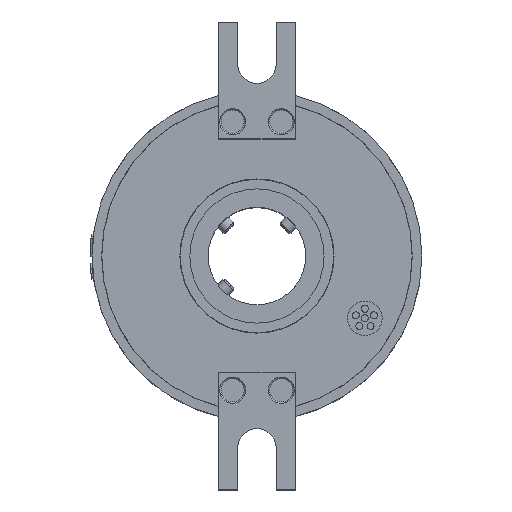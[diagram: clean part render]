
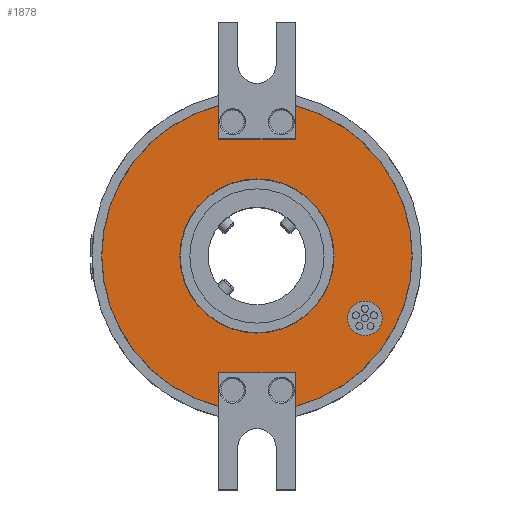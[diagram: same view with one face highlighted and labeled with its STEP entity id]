
A CAD part, top view. The second image highlights one B-rep face of the part: STEP entity #1878.
In plain terms, the highlighted planar face has unit normal (0, 0, 1).
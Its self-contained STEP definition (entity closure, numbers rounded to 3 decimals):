
#213=FACE_BOUND('',#4796,.T.);
#214=FACE_BOUND('',#4797,.T.);
#215=FACE_BOUND('',#4798,.T.);
#503=CIRCLE('',#16333,4.5);
#504=CIRCLE('',#16334,40.45);
#505=CIRCLE('',#16335,40.45);
#506=CIRCLE('',#16336,20.1);
#920=PLANE('',#16337);
#1167=LINE('',#30796,#3143);
#1168=LINE('',#30799,#3144);
#1169=LINE('',#30801,#3145);
#1170=LINE('',#30805,#3146);
#1171=LINE('',#30807,#3147);
#1172=LINE('',#30809,#3148);
#1878=ADVANCED_FACE('',(#213,#214,#215),#920,.T.);
#3143=VECTOR('',#17886,1.);
#3144=VECTOR('',#17887,1.);
#3145=VECTOR('',#17888,1.);
#3146=VECTOR('',#17891,1.);
#3147=VECTOR('',#17892,1.);
#3148=VECTOR('',#17893,1.);
#4796=EDGE_LOOP('',(#8015));
#4797=EDGE_LOOP('',(#8016,#8017,#8018,#8019,#8020,#8021,#8022,#8023));
#4798=EDGE_LOOP('',(#8024));
#8015=ORIENTED_EDGE('',*,*,#13122,.T.);
#8016=ORIENTED_EDGE('',*,*,#13123,.F.);
#8017=ORIENTED_EDGE('',*,*,#13124,.F.);
#8018=ORIENTED_EDGE('',*,*,#13125,.F.);
#8019=ORIENTED_EDGE('',*,*,#13126,.F.);
#8020=ORIENTED_EDGE('',*,*,#13127,.F.);
#8021=ORIENTED_EDGE('',*,*,#13128,.F.);
#8022=ORIENTED_EDGE('',*,*,#13129,.F.);
#8023=ORIENTED_EDGE('',*,*,#13130,.F.);
#8024=ORIENTED_EDGE('',*,*,#13131,.F.);
#10994=VERTEX_POINT('',#30795);
#10995=VERTEX_POINT('',#30797);
#10996=VERTEX_POINT('',#30798);
#10997=VERTEX_POINT('',#30800);
#10998=VERTEX_POINT('',#30802);
#10999=VERTEX_POINT('',#30804);
#11000=VERTEX_POINT('',#30806);
#11001=VERTEX_POINT('',#30808);
#11002=VERTEX_POINT('',#30810);
#11003=VERTEX_POINT('',#30813);
#13122=EDGE_CURVE('',#10994,#10994,#503,.T.);
#13123=EDGE_CURVE('',#10995,#10996,#1167,.T.);
#13124=EDGE_CURVE('',#10997,#10995,#1168,.T.);
#13125=EDGE_CURVE('',#10998,#10997,#1169,.T.);
#13126=EDGE_CURVE('',#10999,#10998,#504,.T.);
#13127=EDGE_CURVE('',#11000,#10999,#1170,.T.);
#13128=EDGE_CURVE('',#11001,#11000,#1171,.T.);
#13129=EDGE_CURVE('',#11002,#11001,#1172,.T.);
#13130=EDGE_CURVE('',#10996,#11002,#505,.T.);
#13131=EDGE_CURVE('',#11003,#11003,#506,.T.);
#16333=AXIS2_PLACEMENT_3D('',#30794,#17884,#17885);
#16334=AXIS2_PLACEMENT_3D('',#30803,#17889,#17890);
#16335=AXIS2_PLACEMENT_3D('',#30811,#17894,#17895);
#16336=AXIS2_PLACEMENT_3D('',#30812,#17896,#17897);
#16337=AXIS2_PLACEMENT_3D('',#30814,#17898,#17899);
#17884=DIRECTION('',(0.,0.,-1.));
#17885=DIRECTION('',(0.866,-0.5,0.));
#17886=DIRECTION('',(0.,1.,0.));
#17887=DIRECTION('',(1.,0.,0.));
#17888=DIRECTION('',(0.,-1.,0.));
#17889=DIRECTION('',(0.,0.,-1.));
#17890=DIRECTION('',(1.,0.,0.));
#17891=DIRECTION('',(0.,-1.,0.));
#17892=DIRECTION('',(-1.,0.,0.));
#17893=DIRECTION('',(0.,1.,0.));
#17894=DIRECTION('',(0.,0.,-1.));
#17895=DIRECTION('',(1.,0.,0.));
#17896=DIRECTION('',(0.,0.,1.));
#17897=DIRECTION('',(1.,0.,0.));
#17898=DIRECTION('',(0.,0.,1.));
#17899=DIRECTION('',(1.,0.,0.));
#30794=CARTESIAN_POINT('',(28.146,-16.25,58.5));
#30795=CARTESIAN_POINT('',(32.043,-18.5,58.5));
#30796=CARTESIAN_POINT('',(10.,45.75,58.5));
#30797=CARTESIAN_POINT('',(10.,30.5,58.5));
#30798=CARTESIAN_POINT('',(10.,39.194,58.5));
#30799=CARTESIAN_POINT('',(0.,30.5,58.5));
#30800=CARTESIAN_POINT('',(-10.,30.5,58.5));
#30801=CARTESIAN_POINT('',(-10.,45.75,58.5));
#30802=CARTESIAN_POINT('',(-10.,39.194,58.5));
#30803=CARTESIAN_POINT('',(0.,0.,58.5));
#30804=CARTESIAN_POINT('',(-10.,-39.194,58.5));
#30805=CARTESIAN_POINT('',(-10.,-45.75,58.5));
#30806=CARTESIAN_POINT('',(-10.,-30.5,58.5));
#30807=CARTESIAN_POINT('',(0.,-30.5,58.5));
#30808=CARTESIAN_POINT('',(10.,-30.5,58.5));
#30809=CARTESIAN_POINT('',(10.,-45.75,58.5));
#30810=CARTESIAN_POINT('',(10.,-39.194,58.5));
#30811=CARTESIAN_POINT('',(0.,0.,58.5));
#30812=CARTESIAN_POINT('',(0.,0.,58.5));
#30813=CARTESIAN_POINT('',(20.1,0.,58.5));
#30814=CARTESIAN_POINT('',(0.,0.,58.5));
